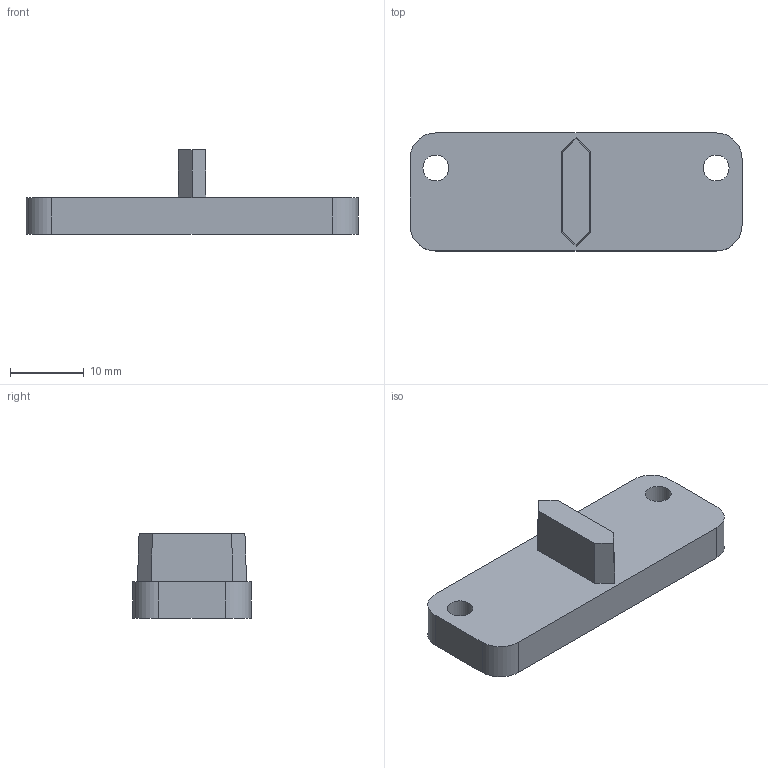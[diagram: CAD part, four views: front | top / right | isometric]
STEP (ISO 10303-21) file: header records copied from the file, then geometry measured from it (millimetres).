
FILE_DESCRIPTION(/* description */ ('Alibre Inc.'),/* implementation_level */ '2;1');
FILE_NAME(/* name */ 'export-673C31D9-C989-48CD-93FF-895DE5009F3D',/* time_stamp */ '2026-01-21T17:22:24+00:00',/* author */ (''),/* organization */ (''),/* preprocessor_version */ 'ST-DEVELOPER v17',/* originating_system */ 'Alibre',/* authorisation */ '');
FILE_SCHEMA (('CONFIG_CONTROL_DESIGN'));
Length unit declared in the file: millimetre
Bounding box: 45 x 16 x 11.5 mm (x, y, z)
Volume: 3756.3 mm3; surface area: 2275.6 mm2
Topology: 1 solids, 1 shells, 19 faces, 48 edges, 32 vertices
Faces by surface type: plane 13, cylinder 6
Full cylindrical faces by diameter (mm): 3.5 x2
Entity records: 644 total; most frequent: CARTESIAN_POINT 97, ORIENTED_EDGE 92, DIRECTION 83, EDGE_CURVE 46, VECTOR 34, LINE 34, VERTEX_POINT 32, AXIS2_PLACEMENT_3D 31
